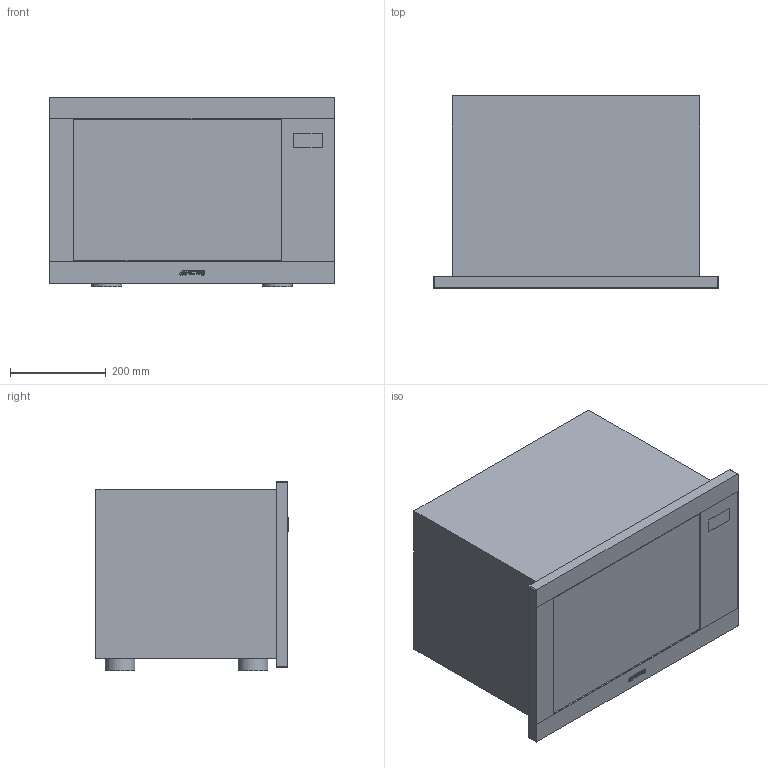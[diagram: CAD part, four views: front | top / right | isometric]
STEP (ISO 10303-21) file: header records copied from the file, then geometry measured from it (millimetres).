
FILE_DESCRIPTION(/* description */ (''),/* implementation_level */ '2;1');
FILE_NAME(/* name */ 'forno fmi325x.stp',/* time_stamp */ '2018-07-26T14:24:51+02:00',/* author */ (''),/* organization */ (''),/* preprocessor_version */ 'ST-DEVELOPER v16',/* originating_system */ 'SIEMENS PLM Software NX 11.0',/* authorisation */ '');
FILE_SCHEMA (('AUTOMOTIVE_DESIGN { 1 0 10303 214 3 1 1 1 }'));
Length unit declared in the file: millimetre
Products named in the file (1): gobb1B3C90CFgooc
Bounding box: 595 x 400.2 x 395.5 mm (x, y, z)
Volume: 71823979 mm3; surface area: 1941912.1 mm2
Topology: 15 solids, 15 shells, 142 faces, 318 edges, 212 vertices
Faces by surface type: plane 90, cylinder 41, extrusion 11
Full cylindrical faces by diameter (mm): 4.608 x6, 25 x1, 62 x4
Entity records: 4259 total; most frequent: CARTESIAN_POINT 964, DIRECTION 640, ORIENTED_EDGE 612, EDGE_CURVE 306, AXIS2_PLACEMENT_3D 214, VERTEX_POINT 212, VECTOR 212, LINE 201
